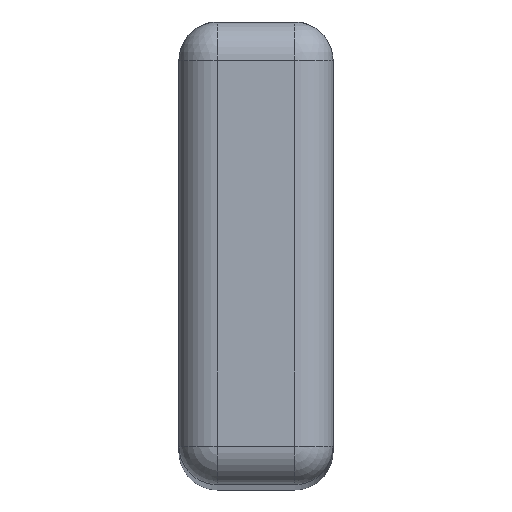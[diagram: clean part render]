
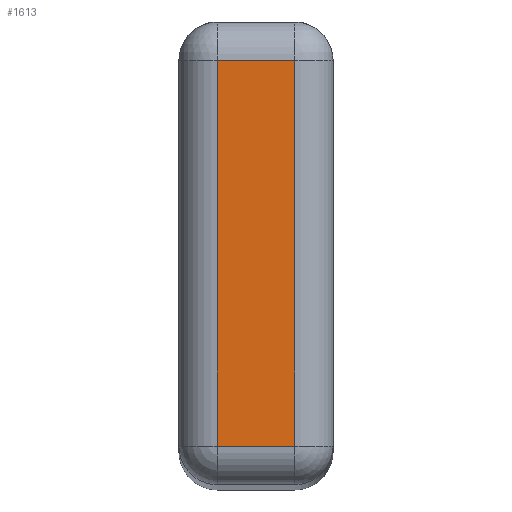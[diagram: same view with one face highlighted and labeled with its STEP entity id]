
A CAD part, top view. The second image highlights one B-rep face of the part: STEP entity #1613.
In plain terms, the highlighted planar face has unit normal (0, 0, 1).
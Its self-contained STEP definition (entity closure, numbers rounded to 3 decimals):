
#126 = CYLINDRICAL_SURFACE('',#127,2.);
#127 = AXIS2_PLACEMENT_3D('',#128,#129,#130);
#128 = CARTESIAN_POINT('',(102.,-12.,258.));
#129 = DIRECTION('',(0.,1.,0.));
#130 = DIRECTION('',(-1.,0.,0.));
#654 = VERTEX_POINT('',#655);
#655 = CARTESIAN_POINT('',(102.,-10.,260.));
#677 = EDGE_CURVE('',#654,#678,#680,.T.);
#678 = VERTEX_POINT('',#679);
#679 = CARTESIAN_POINT('',(102.,10.,260.));
#680 = SURFACE_CURVE('',#681,(#685,#692),.PCURVE_S1.);
#681 = LINE('',#682,#683);
#682 = CARTESIAN_POINT('',(102.,-12.,260.));
#683 = VECTOR('',#684,1.);
#684 = DIRECTION('',(0.,1.,0.));
#685 = PCURVE('',#126,#686);
#686 = DEFINITIONAL_REPRESENTATION('',(#687),#691);
#687 = LINE('',#688,#689);
#688 = CARTESIAN_POINT('',(1.571,0.));
#689 = VECTOR('',#690,1.);
#690 = DIRECTION('',(0.,1.));
#691 = ( GEOMETRIC_REPRESENTATION_CONTEXT(2) 
PARAMETRIC_REPRESENTATION_CONTEXT() REPRESENTATION_CONTEXT('2D SPACE',''
  ) );
#692 = PCURVE('',#693,#698);
#693 = PLANE('',#694);
#694 = AXIS2_PLACEMENT_3D('',#695,#696,#697);
#695 = CARTESIAN_POINT('',(100.,-12.,260.));
#696 = DIRECTION('',(0.,0.,1.));
#697 = DIRECTION('',(1.,0.,0.));
#698 = DEFINITIONAL_REPRESENTATION('',(#699),#703);
#699 = LINE('',#700,#701);
#700 = CARTESIAN_POINT('',(2.,0.));
#701 = VECTOR('',#702,1.);
#702 = DIRECTION('',(0.,1.));
#703 = ( GEOMETRIC_REPRESENTATION_CONTEXT(2) 
PARAMETRIC_REPRESENTATION_CONTEXT() REPRESENTATION_CONTEXT('2D SPACE',''
  ) );
#1417 = CYLINDRICAL_SURFACE('',#1418,2.);
#1418 = AXIS2_PLACEMENT_3D('',#1419,#1420,#1421);
#1419 = CARTESIAN_POINT('',(100.,-10.,258.));
#1420 = DIRECTION('',(1.,0.,0.));
#1421 = DIRECTION('',(0.,-1.,0.));
#1613 = ADVANCED_FACE('',(#1614),#693,.T.);
#1614 = FACE_BOUND('',#1615,.T.);
#1615 = EDGE_LOOP('',(#1616,#1617,#1640,#1668));
#1616 = ORIENTED_EDGE('',*,*,#677,.F.);
#1617 = ORIENTED_EDGE('',*,*,#1618,.T.);
#1618 = EDGE_CURVE('',#654,#1619,#1621,.T.);
#1619 = VERTEX_POINT('',#1620);
#1620 = CARTESIAN_POINT('',(106.,-10.,260.));
#1621 = SURFACE_CURVE('',#1622,(#1626,#1633),.PCURVE_S1.);
#1622 = LINE('',#1623,#1624);
#1623 = CARTESIAN_POINT('',(100.,-10.,260.));
#1624 = VECTOR('',#1625,1.);
#1625 = DIRECTION('',(1.,0.,0.));
#1626 = PCURVE('',#693,#1627);
#1627 = DEFINITIONAL_REPRESENTATION('',(#1628),#1632);
#1628 = LINE('',#1629,#1630);
#1629 = CARTESIAN_POINT('',(0.,2.));
#1630 = VECTOR('',#1631,1.);
#1631 = DIRECTION('',(1.,0.));
#1632 = ( GEOMETRIC_REPRESENTATION_CONTEXT(2) 
PARAMETRIC_REPRESENTATION_CONTEXT() REPRESENTATION_CONTEXT('2D SPACE',''
  ) );
#1633 = PCURVE('',#1417,#1634);
#1634 = DEFINITIONAL_REPRESENTATION('',(#1635),#1639);
#1635 = LINE('',#1636,#1637);
#1636 = CARTESIAN_POINT('',(-1.571,0.));
#1637 = VECTOR('',#1638,1.);
#1638 = DIRECTION('',(-0.,1.));
#1639 = ( GEOMETRIC_REPRESENTATION_CONTEXT(2) 
PARAMETRIC_REPRESENTATION_CONTEXT() REPRESENTATION_CONTEXT('2D SPACE',''
  ) );
#1640 = ORIENTED_EDGE('',*,*,#1641,.T.);
#1641 = EDGE_CURVE('',#1619,#1642,#1644,.T.);
#1642 = VERTEX_POINT('',#1643);
#1643 = CARTESIAN_POINT('',(106.,10.,260.));
#1644 = SURFACE_CURVE('',#1645,(#1649,#1656),.PCURVE_S1.);
#1645 = LINE('',#1646,#1647);
#1646 = CARTESIAN_POINT('',(106.,-12.,260.));
#1647 = VECTOR('',#1648,1.);
#1648 = DIRECTION('',(0.,1.,0.));
#1649 = PCURVE('',#693,#1650);
#1650 = DEFINITIONAL_REPRESENTATION('',(#1651),#1655);
#1651 = LINE('',#1652,#1653);
#1652 = CARTESIAN_POINT('',(6.,0.));
#1653 = VECTOR('',#1654,1.);
#1654 = DIRECTION('',(0.,1.));
#1655 = ( GEOMETRIC_REPRESENTATION_CONTEXT(2) 
PARAMETRIC_REPRESENTATION_CONTEXT() REPRESENTATION_CONTEXT('2D SPACE',''
  ) );
#1656 = PCURVE('',#1657,#1662);
#1657 = CYLINDRICAL_SURFACE('',#1658,2.);
#1658 = AXIS2_PLACEMENT_3D('',#1659,#1660,#1661);
#1659 = CARTESIAN_POINT('',(106.,-12.,258.));
#1660 = DIRECTION('',(0.,1.,0.));
#1661 = DIRECTION('',(1.,0.,-0.));
#1662 = DEFINITIONAL_REPRESENTATION('',(#1663),#1667);
#1663 = LINE('',#1664,#1665);
#1664 = CARTESIAN_POINT('',(-1.571,0.));
#1665 = VECTOR('',#1666,1.);
#1666 = DIRECTION('',(-0.,1.));
#1667 = ( GEOMETRIC_REPRESENTATION_CONTEXT(2) 
PARAMETRIC_REPRESENTATION_CONTEXT() REPRESENTATION_CONTEXT('2D SPACE',''
  ) );
#1668 = ORIENTED_EDGE('',*,*,#1669,.F.);
#1669 = EDGE_CURVE('',#678,#1642,#1670,.T.);
#1670 = SURFACE_CURVE('',#1671,(#1675,#1682),.PCURVE_S1.);
#1671 = LINE('',#1672,#1673);
#1672 = CARTESIAN_POINT('',(100.,10.,260.));
#1673 = VECTOR('',#1674,1.);
#1674 = DIRECTION('',(1.,0.,0.));
#1675 = PCURVE('',#693,#1676);
#1676 = DEFINITIONAL_REPRESENTATION('',(#1677),#1681);
#1677 = LINE('',#1678,#1679);
#1678 = CARTESIAN_POINT('',(0.,22.));
#1679 = VECTOR('',#1680,1.);
#1680 = DIRECTION('',(1.,0.));
#1681 = ( GEOMETRIC_REPRESENTATION_CONTEXT(2) 
PARAMETRIC_REPRESENTATION_CONTEXT() REPRESENTATION_CONTEXT('2D SPACE',''
  ) );
#1682 = PCURVE('',#1683,#1688);
#1683 = CYLINDRICAL_SURFACE('',#1684,2.);
#1684 = AXIS2_PLACEMENT_3D('',#1685,#1686,#1687);
#1685 = CARTESIAN_POINT('',(100.,10.,258.));
#1686 = DIRECTION('',(1.,0.,0.));
#1687 = DIRECTION('',(-0.,1.,0.));
#1688 = DEFINITIONAL_REPRESENTATION('',(#1689),#1693);
#1689 = LINE('',#1690,#1691);
#1690 = CARTESIAN_POINT('',(1.571,0.));
#1691 = VECTOR('',#1692,1.);
#1692 = DIRECTION('',(0.,1.));
#1693 = ( GEOMETRIC_REPRESENTATION_CONTEXT(2) 
PARAMETRIC_REPRESENTATION_CONTEXT() REPRESENTATION_CONTEXT('2D SPACE',''
  ) );
